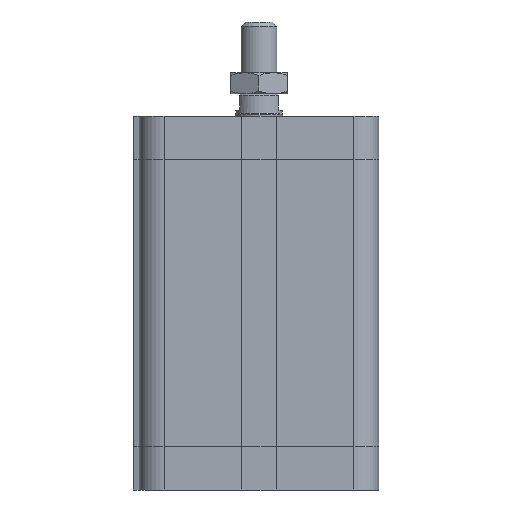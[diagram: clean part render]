
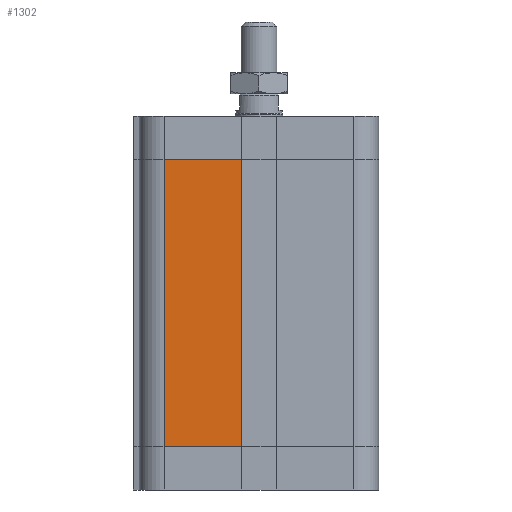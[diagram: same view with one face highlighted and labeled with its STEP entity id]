
A CAD part, left-side view. The second image highlights one B-rep face of the part: STEP entity #1302.
In plain terms, the highlighted planar face has unit normal (-1, 0, 0).
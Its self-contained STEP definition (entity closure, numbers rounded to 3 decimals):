
#1213=CARTESIAN_POINT('',(-40.,31.75,14.5));
#1214=VERTEX_POINT('',#1213);
#1222=CARTESIAN_POINT('',(-40.,31.75,110.5));
#1223=VERTEX_POINT('',#1222);
#1224=CARTESIAN_POINT('',(-40.,31.75,14.5));
#1225=DIRECTION('',(0.0,0.0,1.0));
#1226=VECTOR('',#1225,96.0);
#1227=LINE('',#1224,#1226);
#1228=EDGE_CURVE('',#1214,#1223,#1227,.T.);
#1272=CARTESIAN_POINT('',(-40.0,6.,0.0));
#1273=DIRECTION('',(-1.0,0.0,0.0));
#1274=DIRECTION('',(0.0,0.0,1.0));
#1275=AXIS2_PLACEMENT_3D('',#1272,#1273,#1274);
#1276=PLANE('',#1275);
#1277=CARTESIAN_POINT('',(-40.0,6.,14.5));
#1278=VERTEX_POINT('',#1277);
#1279=CARTESIAN_POINT('',(-40.,31.75,14.5));
#1280=DIRECTION('',(0.0,-1.0,0.0));
#1281=VECTOR('',#1280,25.75);
#1282=LINE('',#1279,#1281);
#1283=EDGE_CURVE('',#1214,#1278,#1282,.T.);
#1284=ORIENTED_EDGE('',*,*,#1283,.T.);
#1285=CARTESIAN_POINT('',(-40.0,6.,110.5));
#1286=VERTEX_POINT('',#1285);
#1287=CARTESIAN_POINT('',(-40.0,6.,14.5));
#1288=DIRECTION('',(0.0,0.0,1.0));
#1289=VECTOR('',#1288,96.0);
#1290=LINE('',#1287,#1289);
#1291=EDGE_CURVE('',#1278,#1286,#1290,.T.);
#1292=ORIENTED_EDGE('',*,*,#1291,.T.);
#1293=CARTESIAN_POINT('',(-40.,31.75,110.5));
#1294=DIRECTION('',(0.0,-1.0,0.0));
#1295=VECTOR('',#1294,25.75);
#1296=LINE('',#1293,#1295);
#1297=EDGE_CURVE('',#1223,#1286,#1296,.T.);
#1298=ORIENTED_EDGE('',*,*,#1297,.F.);
#1299=ORIENTED_EDGE('',*,*,#1228,.F.);
#1300=EDGE_LOOP('',(#1284,#1292,#1298,#1299));
#1301=FACE_OUTER_BOUND('',#1300,.T.);
#1302=ADVANCED_FACE('',(#1301),#1276,.T.);
